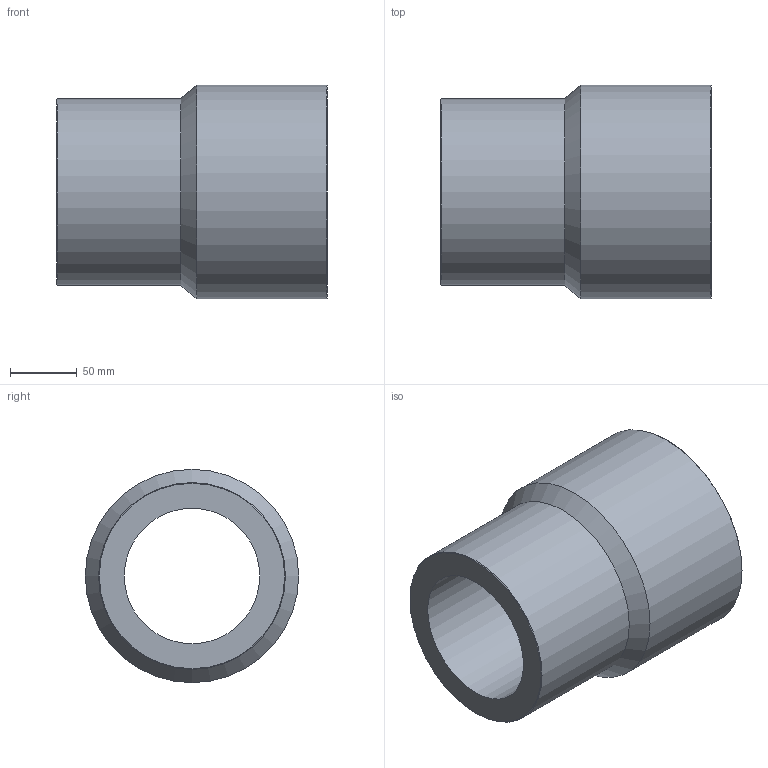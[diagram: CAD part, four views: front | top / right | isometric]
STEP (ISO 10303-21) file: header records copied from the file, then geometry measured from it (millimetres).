
FILE_DESCRIPTION(/* description */ ('Unknown'),/* implementation_level */ '2;1');
FILE_NAME(/* name */ 'RP160140H',/* time_stamp */ '2021-09-16T12:42:01+02:00',/* author */ ('Unknown'),/* organization */ ('Unknown'),/* preprocessor_version */ 'ST-DEVELOPER v16.7',/* originating_system */ 'Solid Edge',/* authorisation */ 'Unknown');
FILE_SCHEMA (('AUTOMOTIVE_DESIGN {1 0 10303 214 3 1 1}'));
Length unit declared in the file: millimetre
Products named in the file (1): RP160140H
Bounding box: 203 x 160 x 160 mm (x, y, z)
Volume: 1727855.6 mm3; surface area: 183910 mm2
Topology: 1 solids, 1 shells, 10 faces, 19 edges, 11 vertices
Faces by surface type: cylinder 4, cone 4, plane 2
Full cylindrical faces by diameter (mm): 101.6 x1, 116.2 x1, 140 x1, 160 x1
Entity records: 238 total; most frequent: DIRECTION 42, CARTESIAN_POINT 31, AXIS2_PLACEMENT_3D 21, ORIENTED_EDGE 20, EDGE_LOOP 20, FACE_BOUND 20, EDGE_CURVE 10, VERTEX_POINT 10
